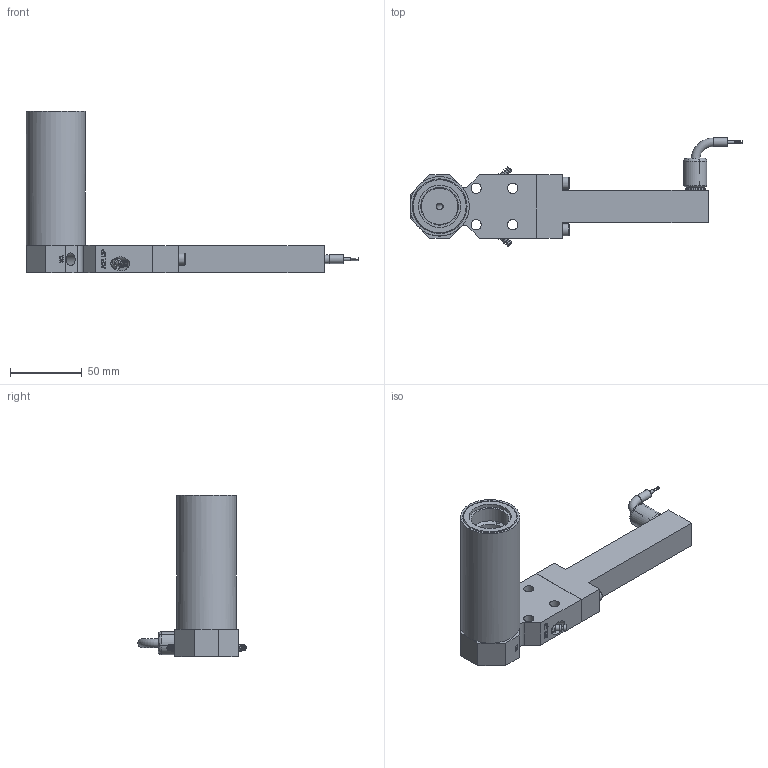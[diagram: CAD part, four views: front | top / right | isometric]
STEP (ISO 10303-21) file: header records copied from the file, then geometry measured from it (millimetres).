
FILE_DESCRIPTION(/* description */ ('ASSY,BODY,VF,LVDT,SXZR4,NHP,RIGHT EXIT'),/* implementation_level */ '2;1');
FILE_NAME(/* name */ 'X:\ASSY,BODY,VF,LVDT,SXZR4,NHP,RIGHT EXIT_0001468933.stp',/* time_stamp */ '2021-04-13T13:07:07-04:00',/* author */ ('Simon.Britton'),/* organization */ (''),/* preprocessor_version */ 'ST-DEVELOPER v17',/* originating_system */ 'Autodesk Inventor 2019',/* authorisation */ '');
FILE_SCHEMA (('AUTOMOTIVE_DESIGN { 1 0 10303 214 3 1 1 }'));
Length unit declared in the file: millimetre
Products named in the file (1): ASSY,VF,LVDT,SXZR,4,TM,S,NHP,N
Bounding box: 231.1 x 75.31 x 112.65 mm (x, y, z)
Volume: 184117.3 mm3; surface area: 84789.4 mm2
Topology: 2 solids, 8 shells, 566 faces, 1468 edges, 980 vertices
Faces by surface type: plane 353, cylinder 95, cone 55, bspline 50, torus 13
Full cylindrical faces by diameter (mm): 0.5 x4, 2 x1, 2.381 x3, 3.175 x2, 4 x3, 4.064 x2, 4.216 x4, 4.318 x2, 4.763 x1, 6 x2, 6.35 x6, 7.112 x3, 7.144 x4, 7.95 x1, 8 x1, 8.5 x2, 8.731 x2, 9.525 x2, 10 x1, 12.7 x1, 13.716 x1, 14 x2, 15.206 x1, 15.24 x2, 16 x1, 25.4 x1, 26.289 x1, 29.369 x1, 35.103 x4, 37.846 x4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
Entity records: 19075 total; most frequent: CARTESIAN_POINT 4698, ORIENTED_EDGE 2926, DIRECTION 2682, EDGE_CURVE 1463, VERTEX_POINT 980, AXIS2_PLACEMENT_3D 918, LINE 846, VECTOR 846
